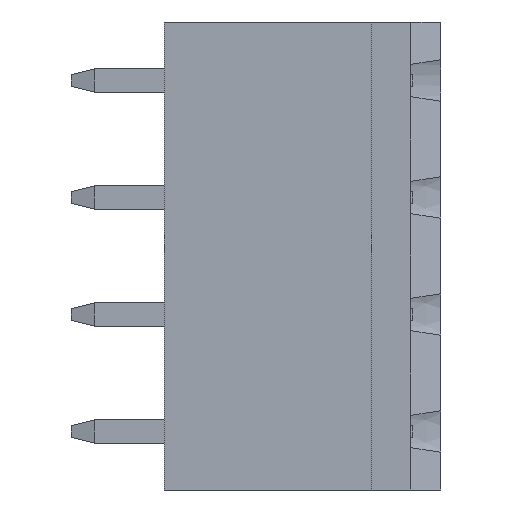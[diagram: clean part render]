
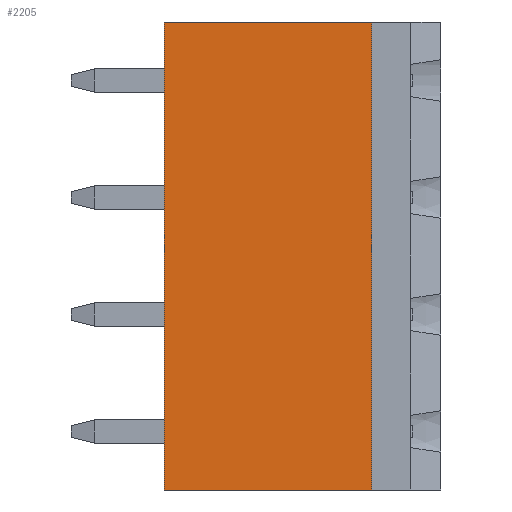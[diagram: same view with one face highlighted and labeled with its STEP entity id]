
A CAD part, left-side view. The second image highlights one B-rep face of the part: STEP entity #2205.
In plain terms, the highlighted planar face has unit normal (-1, 0, 0).
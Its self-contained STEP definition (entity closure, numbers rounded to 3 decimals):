
#959 = DIRECTION ( 'NONE',  ( 0., -1., 0. ) ) ;
#1111 = EDGE_LOOP ( 'NONE', ( #2883, #7664, #8563, #9738 ) ) ;
#1385 = FACE_OUTER_BOUND ( 'NONE', #1111, .T. ) ;
#1488 = DIRECTION ( 'NONE',  ( 0., -1., 0. ) ) ;
#1599 = CARTESIAN_POINT ( 'NONE',  ( -3.9, 12., 0. ) ) ;
#1803 = CARTESIAN_POINT ( 'NONE',  ( -3.9, 12., 0. ) ) ;
#2205 = ADVANCED_FACE ( 'NONE', ( #1385 ), #4732, .T. ) ;
#2883 = ORIENTED_EDGE ( 'NONE', *, *, #7280, .T. ) ;
#3484 = AXIS2_PLACEMENT_3D ( 'NONE', #4627, #7963, #8720 ) ;
#3745 = DIRECTION ( 'NONE',  ( 0., 0., 1. ) ) ;
#3790 = LINE ( 'NONE', #10215, #5311 ) ;
#4062 = CARTESIAN_POINT ( 'NONE',  ( -3.9, 3., 0. ) ) ;
#4104 = CARTESIAN_POINT ( 'NONE',  ( -3.9, 3., 20.32 ) ) ;
#4500 = LINE ( 'NONE', #7575, #5321 ) ;
#4627 = CARTESIAN_POINT ( 'NONE',  ( -3.9, 12., 0. ) ) ;
#4732 = PLANE ( 'NONE',  #3484 ) ;
#4968 = VECTOR ( 'NONE', #1488, 1000. ) ;
#5311 = VECTOR ( 'NONE', #8833, 1000. ) ;
#5321 = VECTOR ( 'NONE', #3745, 1000. ) ;
#5652 = VECTOR ( 'NONE', #959, 1000. ) ;
#6897 = VERTEX_POINT ( 'NONE', #4104 ) ;
#7280 = EDGE_CURVE ( 'NONE', #10097, #9398, #9626, .T. ) ;
#7314 = LINE ( 'NONE', #8159, #5652 ) ;
#7575 = CARTESIAN_POINT ( 'NONE',  ( -3.9, 12., 0. ) ) ;
#7664 = ORIENTED_EDGE ( 'NONE', *, *, #9628, .F. ) ;
#7734 = VERTEX_POINT ( 'NONE', #8107 ) ;
#7963 = DIRECTION ( 'NONE',  ( -1., 0., 0. ) ) ;
#8107 = CARTESIAN_POINT ( 'NONE',  ( -3.9, 12., 20.32 ) ) ;
#8159 = CARTESIAN_POINT ( 'NONE',  ( -3.9, 12., 20.32 ) ) ;
#8563 = ORIENTED_EDGE ( 'NONE', *, *, #8969, .F. ) ;
#8720 = DIRECTION ( 'NONE',  ( 0., 0., 1. ) ) ;
#8833 = DIRECTION ( 'NONE',  ( 0., 0., -1. ) ) ;
#8969 = EDGE_CURVE ( 'NONE', #7734, #6897, #7314, .T. ) ;
#9398 = VERTEX_POINT ( 'NONE', #4062 ) ;
#9626 = LINE ( 'NONE', #1599, #4968 ) ;
#9628 = EDGE_CURVE ( 'NONE', #6897, #9398, #3790, .T. ) ;
#9738 = ORIENTED_EDGE ( 'NONE', *, *, #10182, .F. ) ;
#10097 = VERTEX_POINT ( 'NONE', #1803 ) ;
#10182 = EDGE_CURVE ( 'NONE', #10097, #7734, #4500, .T. ) ;
#10215 = CARTESIAN_POINT ( 'NONE',  ( -3.9, 3., 20.32 ) ) ;
